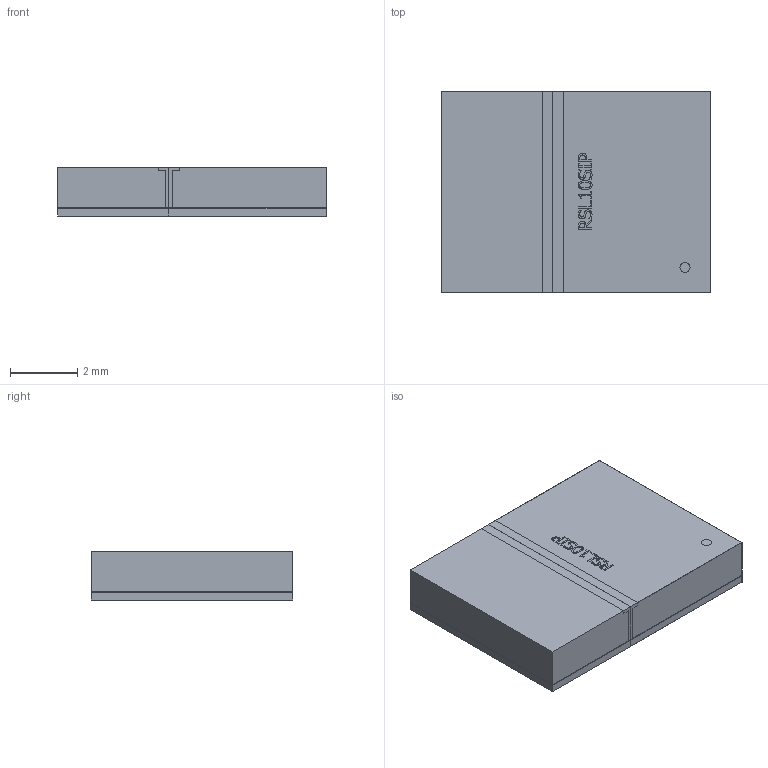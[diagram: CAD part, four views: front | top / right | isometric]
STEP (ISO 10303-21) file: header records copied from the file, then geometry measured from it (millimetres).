
FILE_DESCRIPTION(/* description */ (''),/* implementation_level */ '2;1');
FILE_NAME(/* name */ 'C:\dhs_root\Packaging\RSL10_SIP\worklib\sip_B\3D\RSL10SIP.stp',/* time_stamp */ '2018-04-30T16:42:02-04:00',/* author */ ('ffwjvw'),/* organization */ (''),/* preprocessor_version */ 'ST-DEVELOPER v17',/* originating_system */ 'Autodesk Inventor 2019',/* authorisation */ '');
FILE_SCHEMA (('AUTOMOTIVE_DESIGN { 1 0 10303 214 3 1 1 }'));
Products named in the file (11): RSL10SIP; BOARD_OUTLINE; L04; PADS_L04; RECT_4500X45004; RECT_4500X32504; SHAPES_L04; SHAPE_1; SMB; MoldCompound; SMT_Dummy
Assembly tree (59 placements, depth 4):
  RSL10SIP
    BOARD_OUTLINE
    L04
      PADS_L04
        RECT_4500X45004  x43
        RECT_4500X32504  x8
      SHAPES_L04
        SHAPE_1
    SMB
    MoldCompound
    SMT_Dummy
Bounding box: 8 x 6.01 x 1.47 mm (x, y, z)
Volume: 70.7 mm3; surface area: 561 mm2
Topology: 62 solids, 62 shells, 694 faces, 1710 edges, 1140 vertices
Faces by surface type: plane 633, bspline 60, cylinder 1
Full cylindrical faces by diameter (mm): 0.3 x1
Entity records: 14037 total; most frequent: CARTESIAN_POINT 3121, ORIENTED_EDGE 2244, DIRECTION 1826, EDGE_CURVE 1122, LINE 1000, VECTOR 1000, VERTEX_POINT 748, EDGE_LOOP 522
